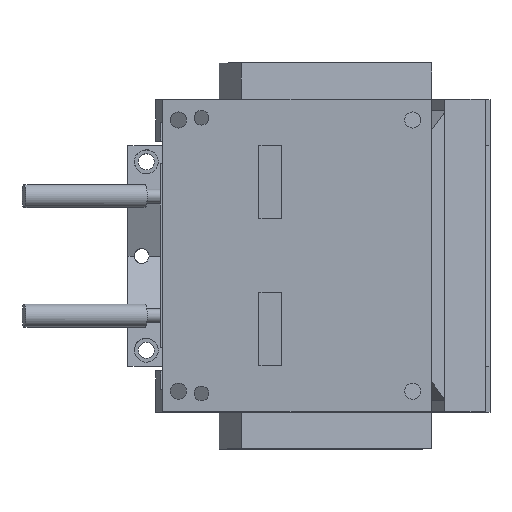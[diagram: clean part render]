
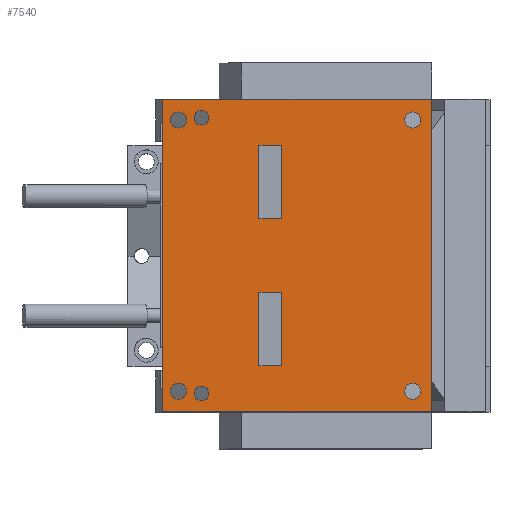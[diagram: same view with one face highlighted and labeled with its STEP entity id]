
A CAD part, top view. The second image highlights one B-rep face of the part: STEP entity #7540.
In plain terms, the highlighted planar face has unit normal (0, 0, 1).
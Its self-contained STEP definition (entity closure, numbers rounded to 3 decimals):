
#7356=AXIS2_PLACEMENT_3D('Plane Axis2P3D',#7353,#7354,#7355) ;
#7434=AXIS2_PLACEMENT_3D('Circle Axis2P3D',#7432,#7433,$) ;
#7443=AXIS2_PLACEMENT_3D('Circle Axis2P3D',#7441,#7442,$) ;
#7452=AXIS2_PLACEMENT_3D('Circle Axis2P3D',#7450,#7451,$) ;
#7461=AXIS2_PLACEMENT_3D('Circle Axis2P3D',#7459,#7460,$) ;
#7470=AXIS2_PLACEMENT_3D('Circle Axis2P3D',#7468,#7469,$) ;
#7479=AXIS2_PLACEMENT_3D('Circle Axis2P3D',#7477,#7478,$) ;
#7488=AXIS2_PLACEMENT_3D('Circle Axis2P3D',#7486,#7487,$) ;
#7497=AXIS2_PLACEMENT_3D('Circle Axis2P3D',#7495,#7496,$) ;
#7506=AXIS2_PLACEMENT_3D('Circle Axis2P3D',#7504,#7505,$) ;
#7515=AXIS2_PLACEMENT_3D('Circle Axis2P3D',#7513,#7514,$) ;
#7524=AXIS2_PLACEMENT_3D('Circle Axis2P3D',#7522,#7523,$) ;
#7533=AXIS2_PLACEMENT_3D('Circle Axis2P3D',#7531,#7532,$) ;
#7226=CARTESIAN_POINT('Vertex',(142.5,120.,375.)) ;
#7231=CARTESIAN_POINT('Line Origine',(142.5,80.,375.)) ;
#7235=CARTESIAN_POINT('Vertex',(142.5,40.,375.)) ;
#7266=CARTESIAN_POINT('Vertex',(167.5,120.,375.)) ;
#7271=CARTESIAN_POINT('Line Origine',(155.,120.,375.)) ;
#7293=CARTESIAN_POINT('Line Origine',(155.,40.,375.)) ;
#7297=CARTESIAN_POINT('Vertex',(167.5,40.,375.)) ;
#7341=CARTESIAN_POINT('Line Origine',(167.5,80.,375.)) ;
#7353=CARTESIAN_POINT('Axis2P3D Location',(330.,0.,375.)) ;
#7358=CARTESIAN_POINT('Line Origine',(38.,0.,375.)) ;
#7362=CARTESIAN_POINT('Vertex',(38.,170.,375.)) ;
#7364=CARTESIAN_POINT('Vertex',(38.,-170.,375.)) ;
#7367=CARTESIAN_POINT('Line Origine',(184.,-170.,375.)) ;
#7371=CARTESIAN_POINT('Vertex',(330.,-170.,375.)) ;
#7374=CARTESIAN_POINT('Line Origine',(330.,0.,375.)) ;
#7378=CARTESIAN_POINT('Vertex',(330.,170.,375.)) ;
#7381=CARTESIAN_POINT('Line Origine',(184.,170.,375.)) ;
#7392=CARTESIAN_POINT('Line Origine',(167.5,-80.,375.)) ;
#7396=CARTESIAN_POINT('Vertex',(167.5,-120.,375.)) ;
#7398=CARTESIAN_POINT('Vertex',(167.5,-40.,375.)) ;
#7401=CARTESIAN_POINT('Line Origine',(155.,-120.,375.)) ;
#7405=CARTESIAN_POINT('Vertex',(142.5,-120.,375.)) ;
#7408=CARTESIAN_POINT('Line Origine',(142.5,-80.,375.)) ;
#7412=CARTESIAN_POINT('Vertex',(142.5,-40.,375.)) ;
#7415=CARTESIAN_POINT('Line Origine',(155.,-40.,375.)) ;
#7432=CARTESIAN_POINT('Axis2P3D Location',(80.,150.,375.)) ;
#7436=CARTESIAN_POINT('Vertex',(80.,158.,375.)) ;
#7438=CARTESIAN_POINT('Vertex',(80.,142.,375.)) ;
#7441=CARTESIAN_POINT('Axis2P3D Location',(80.,150.,375.)) ;
#7450=CARTESIAN_POINT('Axis2P3D Location',(80.,-150.,375.)) ;
#7454=CARTESIAN_POINT('Vertex',(80.,-158.,375.)) ;
#7456=CARTESIAN_POINT('Vertex',(80.,-142.,375.)) ;
#7459=CARTESIAN_POINT('Axis2P3D Location',(80.,-150.,375.)) ;
#7468=CARTESIAN_POINT('Axis2P3D Location',(55.,147.5,375.)) ;
#7472=CARTESIAN_POINT('Vertex',(55.,138.75,375.)) ;
#7474=CARTESIAN_POINT('Vertex',(55.,156.25,375.)) ;
#7477=CARTESIAN_POINT('Axis2P3D Location',(55.,147.5,375.)) ;
#7486=CARTESIAN_POINT('Axis2P3D Location',(310.,147.5,375.)) ;
#7490=CARTESIAN_POINT('Vertex',(310.,138.75,375.)) ;
#7492=CARTESIAN_POINT('Vertex',(310.,156.25,375.)) ;
#7495=CARTESIAN_POINT('Axis2P3D Location',(310.,147.5,375.)) ;
#7504=CARTESIAN_POINT('Axis2P3D Location',(55.,-147.5,375.)) ;
#7508=CARTESIAN_POINT('Vertex',(55.,-156.25,375.)) ;
#7510=CARTESIAN_POINT('Vertex',(55.,-138.75,375.)) ;
#7513=CARTESIAN_POINT('Axis2P3D Location',(55.,-147.5,375.)) ;
#7522=CARTESIAN_POINT('Axis2P3D Location',(310.,-147.5,375.)) ;
#7526=CARTESIAN_POINT('Vertex',(310.,-156.25,375.)) ;
#7528=CARTESIAN_POINT('Vertex',(310.,-138.75,375.)) ;
#7531=CARTESIAN_POINT('Axis2P3D Location',(310.,-147.5,375.)) ;
#7232=DIRECTION('Vector Direction',(0.,-1.,0.)) ;
#7272=DIRECTION('Vector Direction',(-1.,0.,0.)) ;
#7294=DIRECTION('Vector Direction',(1.,0.,0.)) ;
#7342=DIRECTION('Vector Direction',(0.,-1.,0.)) ;
#7354=DIRECTION('Axis2P3D Direction',(0.,0.,-1.)) ;
#7355=DIRECTION('Axis2P3D XDirection',(-1.,0.,0.)) ;
#7359=DIRECTION('Vector Direction',(0.,1.,0.)) ;
#7368=DIRECTION('Vector Direction',(-1.,0.,0.)) ;
#7375=DIRECTION('Vector Direction',(0.,1.,0.)) ;
#7382=DIRECTION('Vector Direction',(-1.,0.,0.)) ;
#7393=DIRECTION('Vector Direction',(0.,-1.,0.)) ;
#7402=DIRECTION('Vector Direction',(-1.,0.,0.)) ;
#7409=DIRECTION('Vector Direction',(0.,-1.,0.)) ;
#7416=DIRECTION('Vector Direction',(1.,0.,0.)) ;
#7433=DIRECTION('Axis2P3D Direction',(0.,0.,-1.)) ;
#7442=DIRECTION('Axis2P3D Direction',(0.,0.,-1.)) ;
#7451=DIRECTION('Axis2P3D Direction',(0.,0.,-1.)) ;
#7460=DIRECTION('Axis2P3D Direction',(0.,0.,-1.)) ;
#7469=DIRECTION('Axis2P3D Direction',(0.,0.,-1.)) ;
#7478=DIRECTION('Axis2P3D Direction',(0.,0.,-1.)) ;
#7487=DIRECTION('Axis2P3D Direction',(0.,0.,-1.)) ;
#7496=DIRECTION('Axis2P3D Direction',(0.,0.,-1.)) ;
#7505=DIRECTION('Axis2P3D Direction',(0.,0.,-1.)) ;
#7514=DIRECTION('Axis2P3D Direction',(0.,0.,-1.)) ;
#7523=DIRECTION('Axis2P3D Direction',(0.,0.,-1.)) ;
#7532=DIRECTION('Axis2P3D Direction',(0.,0.,-1.)) ;
#7233=VECTOR('Line Direction',#7232,1.) ;
#7273=VECTOR('Line Direction',#7272,1.) ;
#7295=VECTOR('Line Direction',#7294,1.) ;
#7343=VECTOR('Line Direction',#7342,1.) ;
#7360=VECTOR('Line Direction',#7359,1.) ;
#7369=VECTOR('Line Direction',#7368,1.) ;
#7376=VECTOR('Line Direction',#7375,1.) ;
#7383=VECTOR('Line Direction',#7382,1.) ;
#7394=VECTOR('Line Direction',#7393,1.) ;
#7403=VECTOR('Line Direction',#7402,1.) ;
#7410=VECTOR('Line Direction',#7409,1.) ;
#7417=VECTOR('Line Direction',#7416,1.) ;
#7387=ORIENTED_EDGE('',*,*,#7366,.T.) ;
#7388=ORIENTED_EDGE('',*,*,#7373,.T.) ;
#7389=ORIENTED_EDGE('',*,*,#7380,.F.) ;
#7390=ORIENTED_EDGE('',*,*,#7385,.F.) ;
#7421=ORIENTED_EDGE('',*,*,#7400,.F.) ;
#7422=ORIENTED_EDGE('',*,*,#7407,.T.) ;
#7423=ORIENTED_EDGE('',*,*,#7414,.T.) ;
#7424=ORIENTED_EDGE('',*,*,#7419,.T.) ;
#7427=ORIENTED_EDGE('',*,*,#7275,.F.) ;
#7428=ORIENTED_EDGE('',*,*,#7345,.T.) ;
#7429=ORIENTED_EDGE('',*,*,#7299,.F.) ;
#7430=ORIENTED_EDGE('',*,*,#7237,.F.) ;
#7447=ORIENTED_EDGE('',*,*,#7440,.T.) ;
#7448=ORIENTED_EDGE('',*,*,#7445,.T.) ;
#7465=ORIENTED_EDGE('',*,*,#7458,.F.) ;
#7466=ORIENTED_EDGE('',*,*,#7463,.F.) ;
#7483=ORIENTED_EDGE('',*,*,#7476,.T.) ;
#7484=ORIENTED_EDGE('',*,*,#7481,.T.) ;
#7501=ORIENTED_EDGE('',*,*,#7494,.T.) ;
#7502=ORIENTED_EDGE('',*,*,#7499,.T.) ;
#7519=ORIENTED_EDGE('',*,*,#7512,.T.) ;
#7520=ORIENTED_EDGE('',*,*,#7517,.T.) ;
#7537=ORIENTED_EDGE('',*,*,#7530,.T.) ;
#7538=ORIENTED_EDGE('',*,*,#7535,.T.) ;
#7425=FACE_BOUND('',#7420,.T.) ;
#7431=FACE_BOUND('',#7426,.T.) ;
#7449=FACE_BOUND('',#7446,.T.) ;
#7467=FACE_BOUND('',#7464,.T.) ;
#7485=FACE_BOUND('',#7482,.T.) ;
#7503=FACE_BOUND('',#7500,.T.) ;
#7521=FACE_BOUND('',#7518,.T.) ;
#7539=FACE_BOUND('',#7536,.T.) ;
#7540=ADVANCED_FACE('cam driver',(#7391,#7425,#7431,#7449,#7467,#7485,#7503,#7521,#7539),#7357,.F.) ;
#7435=CIRCLE('generated circle',#7434,8.) ;
#7444=CIRCLE('generated circle',#7443,8.) ;
#7453=CIRCLE('generated circle',#7452,8.) ;
#7462=CIRCLE('generated circle',#7461,8.) ;
#7471=CIRCLE('generated circle',#7470,8.75) ;
#7480=CIRCLE('generated circle',#7479,8.75) ;
#7489=CIRCLE('generated circle',#7488,8.75) ;
#7498=CIRCLE('generated circle',#7497,8.75) ;
#7507=CIRCLE('generated circle',#7506,8.75) ;
#7516=CIRCLE('generated circle',#7515,8.75) ;
#7525=CIRCLE('generated circle',#7524,8.75) ;
#7534=CIRCLE('generated circle',#7533,8.75) ;
#7237=EDGE_CURVE('',#7227,#7236,#7234,.T.) ;
#7275=EDGE_CURVE('',#7267,#7227,#7274,.T.) ;
#7299=EDGE_CURVE('',#7236,#7298,#7296,.T.) ;
#7345=EDGE_CURVE('',#7267,#7298,#7344,.T.) ;
#7366=EDGE_CURVE('',#7363,#7365,#7361,.F.) ;
#7373=EDGE_CURVE('',#7365,#7372,#7370,.F.) ;
#7380=EDGE_CURVE('',#7379,#7372,#7377,.F.) ;
#7385=EDGE_CURVE('',#7363,#7379,#7384,.F.) ;
#7400=EDGE_CURVE('',#7397,#7399,#7395,.F.) ;
#7407=EDGE_CURVE('',#7397,#7406,#7404,.T.) ;
#7414=EDGE_CURVE('',#7406,#7413,#7411,.F.) ;
#7419=EDGE_CURVE('',#7413,#7399,#7418,.T.) ;
#7440=EDGE_CURVE('',#7437,#7439,#7435,.T.) ;
#7445=EDGE_CURVE('',#7439,#7437,#7444,.T.) ;
#7458=EDGE_CURVE('',#7455,#7457,#7453,.F.) ;
#7463=EDGE_CURVE('',#7457,#7455,#7462,.F.) ;
#7476=EDGE_CURVE('',#7473,#7475,#7471,.T.) ;
#7481=EDGE_CURVE('',#7475,#7473,#7480,.T.) ;
#7494=EDGE_CURVE('',#7491,#7493,#7489,.T.) ;
#7499=EDGE_CURVE('',#7493,#7491,#7498,.T.) ;
#7512=EDGE_CURVE('',#7509,#7511,#7507,.T.) ;
#7517=EDGE_CURVE('',#7511,#7509,#7516,.T.) ;
#7530=EDGE_CURVE('',#7527,#7529,#7525,.T.) ;
#7535=EDGE_CURVE('',#7529,#7527,#7534,.T.) ;
#7386=EDGE_LOOP('',(#7387,#7388,#7389,#7390)) ;
#7420=EDGE_LOOP('',(#7421,#7422,#7423,#7424)) ;
#7426=EDGE_LOOP('',(#7427,#7428,#7429,#7430)) ;
#7446=EDGE_LOOP('',(#7447,#7448)) ;
#7464=EDGE_LOOP('',(#7465,#7466)) ;
#7482=EDGE_LOOP('',(#7483,#7484)) ;
#7500=EDGE_LOOP('',(#7501,#7502)) ;
#7518=EDGE_LOOP('',(#7519,#7520)) ;
#7536=EDGE_LOOP('',(#7537,#7538)) ;
#7391=FACE_OUTER_BOUND('',#7386,.T.) ;
#7234=LINE('Line',#7231,#7233) ;
#7274=LINE('Line',#7271,#7273) ;
#7296=LINE('Line',#7293,#7295) ;
#7344=LINE('Line',#7341,#7343) ;
#7361=LINE('Line',#7358,#7360) ;
#7370=LINE('Line',#7367,#7369) ;
#7377=LINE('Line',#7374,#7376) ;
#7384=LINE('Line',#7381,#7383) ;
#7395=LINE('Line',#7392,#7394) ;
#7404=LINE('Line',#7401,#7403) ;
#7411=LINE('Line',#7408,#7410) ;
#7418=LINE('Line',#7415,#7417) ;
#7357=PLANE('',#7356) ;
#7227=VERTEX_POINT('',#7226) ;
#7236=VERTEX_POINT('',#7235) ;
#7267=VERTEX_POINT('',#7266) ;
#7298=VERTEX_POINT('',#7297) ;
#7363=VERTEX_POINT('',#7362) ;
#7365=VERTEX_POINT('',#7364) ;
#7372=VERTEX_POINT('',#7371) ;
#7379=VERTEX_POINT('',#7378) ;
#7397=VERTEX_POINT('',#7396) ;
#7399=VERTEX_POINT('',#7398) ;
#7406=VERTEX_POINT('',#7405) ;
#7413=VERTEX_POINT('',#7412) ;
#7437=VERTEX_POINT('',#7436) ;
#7439=VERTEX_POINT('',#7438) ;
#7455=VERTEX_POINT('',#7454) ;
#7457=VERTEX_POINT('',#7456) ;
#7473=VERTEX_POINT('',#7472) ;
#7475=VERTEX_POINT('',#7474) ;
#7491=VERTEX_POINT('',#7490) ;
#7493=VERTEX_POINT('',#7492) ;
#7509=VERTEX_POINT('',#7508) ;
#7511=VERTEX_POINT('',#7510) ;
#7527=VERTEX_POINT('',#7526) ;
#7529=VERTEX_POINT('',#7528) ;
